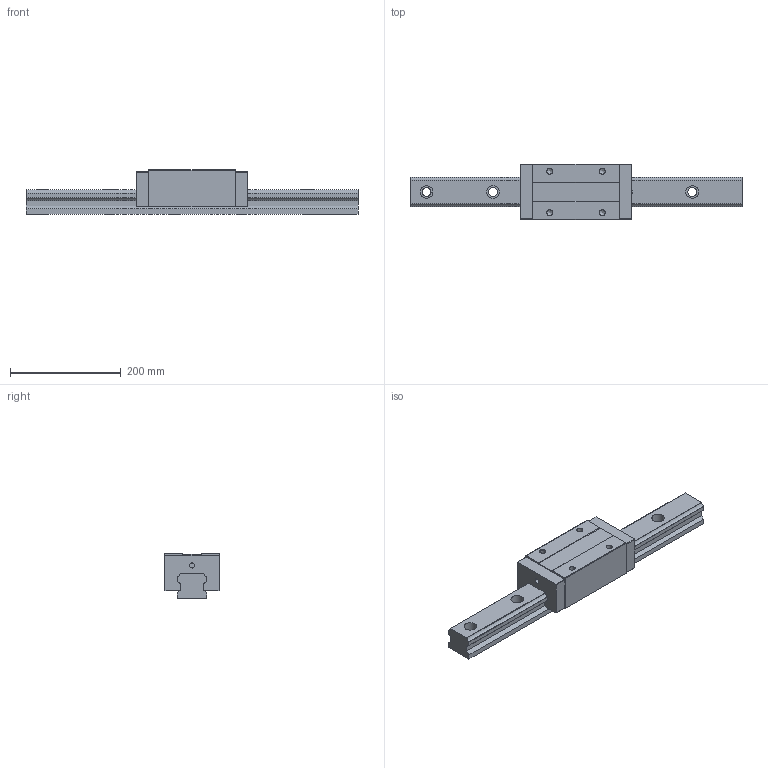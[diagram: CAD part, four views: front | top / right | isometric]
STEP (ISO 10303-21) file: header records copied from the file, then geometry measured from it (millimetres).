
FILE_DESCRIPTION(/* description */ (''),/* implementation_level */ '2;1');
FILE_NAME(/* name */ 'TRH55VE-XN.stp',/* time_stamp */ '2017-10-25T15:06:52+08:00',/* author */ (''),/* organization */ (''),/* preprocessor_version */ 'ST-DEVELOPER v11',/* originating_system */ 'SIEMENS UGS NX 6.0',/* authorisation */ '');
FILE_SCHEMA (('AUTOMOTIVE_DESIGN { 1 0 10303 214 1 1 1 1 }'));
Length unit declared in the file: millimetre
Products named in the file (1): TRH55VE-XN
Bounding box: 600 x 100 x 80 mm (x, y, z)
Volume: 2209765.6 mm3; surface area: 229574.5 mm2
Topology: 2 solids, 2 shells, 115 faces, 297 edges, 193 vertices
Faces by surface type: plane 71, cylinder 36, cone 8
Full cylindrical faces by diameter (mm): 9.175 x2, 10.25 x4, 16 x5, 23 x5
Entity records: 3848 total; most frequent: DIRECTION 568, CARTESIAN_POINT 560, ORIENTED_EDGE 520, EDGE_CURVE 260, AXIS2_PLACEMENT_3D 192, VERTEX_POINT 184, LINE 184, VECTOR 184
